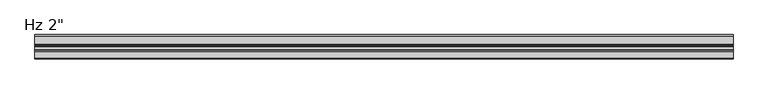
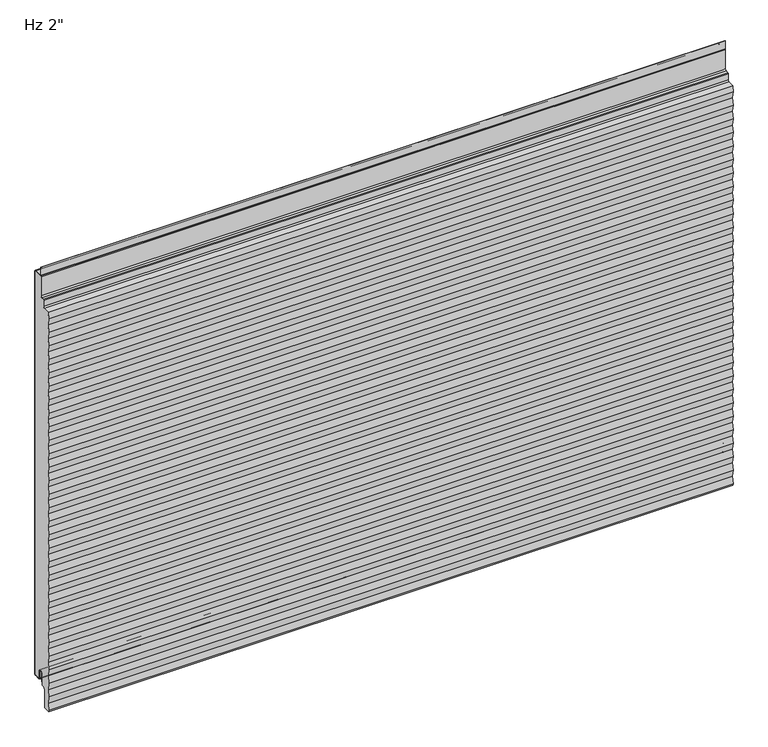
"""IFC4 building model written with IfcOpenShell, lengths in millimetres: plate geometry."""

from ifc_helpers import new_model, si_unit, point, frame, frame_2d, origin, place, context, project, spatial, polyline, circle_curve, trimmed, segment, composite_curve, outline, extrude, source, transform, mapped, element, save


def plate_3e87048a(model_context):
    return source(origin(), model_context, "Body", "SweptSolid", [
        extrude(outline(composite_curve([segment(polyline([(-22.8125, 869.3620957), (-22.8125, 912.60625), (-2.38125, 912.60625)]), True, "CONTINUOUS"), segment(trimmed(circle_curve(frame_2d((-2.38125, 911.225)), 1.38125), [point((-2.38125, 912.60625))], [point((-1.0, 911.225))], False, "CARTESIAN"), True, "CONTINUOUS"), segment(polyline([(-1.0, 911.225), (-1.0, 3.175)]), True, "CONTINUOUS"), segment(trimmed(circle_curve(frame_2d((-2.38125, 3.175)), 1.38125), [point((-1.0, 3.175))], [point((-2.38125, 1.79375))], False, "CARTESIAN"), True, "CONTINUOUS"), segment(polyline([(-2.38125, 1.79375), (-15.08125, 1.79375)]), True, "CONTINUOUS"), segment(trimmed(circle_curve(frame_2d((-15.08125, 3.175)), 1.38125), [point((-15.08125, 1.79375))], [point((-16.4625, 3.175))], False, "CARTESIAN"), True, "CONTINUOUS"), segment(polyline([(-16.4625, 3.175), (-16.4625, 19.05)]), True, "CONTINUOUS"), segment(trimmed(circle_curve(frame_2d((-21.43125, 19.05)), 4.96875), [point((-16.4625, 19.05))], [point((-26.4, 19.05))], True, "CARTESIAN"), True, "CONTINUOUS"), segment(polyline([(-26.4, 19.05), (-26.4, -6.9375), (-30.95625, -6.9375)]), True, "CONTINUOUS"), segment(trimmed(circle_curve(frame_2d((-30.95625, -11.90625)), 4.96875), [point((-30.95625, -6.9375))], [point((-35.925, -11.90625))], True, "CARTESIAN"), True, "CONTINUOUS"), segment(polyline([(-35.925, -11.90625), (-35.925, -50.0895546)]), True, "CONTINUOUS"), segment(trimmed(circle_curve(frame_2d((-37.30625, -50.0895546)), 1.38125), [point((-35.925, -50.0895546))], [point((-37.233961, -51.4689117))], False, "CARTESIAN"), True, "CONTINUOUS"), segment(polyline([(-37.233961, -51.4689117), (-50.4085109, -52.1593606), (-50.9378194, -48.8511825), (-48.4994194, -33.6111825), (-50.9378194, -18.3711825), (-48.4994194, -3.1311825), (-50.9378194, 12.1088175), (-48.4994194, 27.3488175), (-50.9378194, 42.5888175), (-48.4994194, 57.8288175), (-50.9378194, 73.0688175), (-48.4994194, 88.3088175), (-50.9378194, 103.5488175), (-48.4994194, 118.7888175), (-50.9378194, 134.0288175), (-48.4994194, 149.2688175), (-50.9378194, 164.5088175), (-48.4994194, 179.7488175), (-50.9378194, 194.9888175), (-48.4994194, 210.2288175), (-50.9378194, 225.4688175), (-48.4994194, 240.7088175), (-50.9378194, 255.9488175), (-48.4994194, 271.1888175), (-50.9378194, 286.4288175), (-48.4994194, 301.6688175), (-50.9378194, 316.9088175), (-48.4994194, 332.1488175), (-50.9378194, 347.3888175), (-48.4994194, 362.6288175), (-50.9378194, 377.8688175), (-48.4994194, 393.1088175), (-50.9378194, 408.3488175), (-48.4994194, 423.5888175), (-50.9378194, 438.8288175), (-48.4994194, 454.0688175), (-50.9378194, 469.3088175), (-48.4994194, 484.5488175), (-50.9378194, 499.7888175), (-48.4994194, 515.0288175), (-50.9378194, 530.2688175), (-48.4994194, 545.5088175), (-50.9378194, 560.7488175), (-48.4994194, 575.9888175), (-50.9378194, 591.2288175), (-48.4994194, 606.4688175), (-50.9378194, 621.7088175), (-48.4994194, 636.9488175), (-50.9378194, 652.1888175), (-48.4994194, 667.4288175), (-50.9378194, 682.6688175), (-48.4994194, 697.9088175), (-50.9378194, 713.1488175), (-48.4994194, 728.3888175), (-50.9378194, 743.6288175), (-48.4994194, 758.8688175), (-50.9378194, 774.1088175), (-48.4994194, 789.3488175), (-50.9378194, 804.5888175), (-48.4994194, 819.8288175), (-50.9054086, 834.86625), (-48.8673048, 847.6043985), (-34.7895807, 848.3421807)]), True, "CONTINUOUS"), segment(trimmed(circle_curve(frame_2d((-34.925, 850.9261347)), 2.5875), [point((-34.7895807, 848.3421807))], [point((-32.3375, 850.9261347))], True, "CARTESIAN"), True, "CONTINUOUS"), segment(polyline([(-32.3375, 850.9261347), (-32.3375, 865.0967085)]), True, "CONTINUOUS"), segment(trimmed(circle_curve(frame_2d((-30.95625, 865.0967085)), 1.38125), [point((-32.3375, 865.0967085))], [point((-31.028539, 866.4760655))], False, "CARTESIAN"), True, "CONTINUOUS"), segment(polyline([(-31.028539, 866.4760655), (-25.2645807, 866.7781418)]), True, "CONTINUOUS"), segment(trimmed(circle_curve(frame_2d((-25.4, 869.3620957)), 2.5875), [point((-25.2645807, 866.7781418))], [point((-22.8125, 869.3620957))], True, "CARTESIAN"), True, "CONTINUOUS")], self_intersect=False)), frame((-730.0, 0.0, 0.0), z_axis=(1.0, 0.0, 0.0), x_axis=(0.0, 1.0, 0.0)), (0.0, 0.0, 1.0), 1460.0),
        extrude(outline(composite_curve([segment(polyline([(-25.4, 0.79375), (-26.4, 0.79375), (-26.4, 19.05)]), True, "CONTINUOUS"), segment(trimmed(circle_curve(frame_2d((-21.43125, 19.05)), 4.96875), [point((-26.4, 19.05))], [point((-16.4625, 19.05))], False, "CARTESIAN"), True, "CONTINUOUS"), segment(polyline([(-16.4625, 19.05), (-16.4625, 3.175)]), True, "CONTINUOUS"), segment(trimmed(circle_curve(frame_2d((-15.08125, 3.175)), 1.38125), [point((-16.4625, 3.175))], [point((-15.08125, 1.79375))], True, "CARTESIAN"), True, "CONTINUOUS"), segment(polyline([(-15.08125, 1.79375), (-2.38125, 1.79375)]), True, "CONTINUOUS"), segment(trimmed(circle_curve(frame_2d((-2.38125, 3.175)), 1.38125), [point((-2.38125, 1.79375))], [point((-1.0, 3.175))], True, "CARTESIAN"), True, "CONTINUOUS"), segment(polyline([(-1.0, 3.175), (-1.0, 911.225)]), True, "CONTINUOUS"), segment(trimmed(circle_curve(frame_2d((-2.38125, 911.225)), 1.38125), [point((-1.0, 911.225))], [point((-2.38125, 912.60625))], True, "CARTESIAN"), True, "CONTINUOUS"), segment(polyline([(-2.38125, 912.60625), (-19.446875, 912.60625)]), True, "CONTINUOUS"), segment(trimmed(circle_curve(frame_2d((-19.446875, 915.19375)), 2.5875), [point((-19.446875, 912.60625))], [point((-22.034375, 915.19375))], False, "CARTESIAN"), True, "CONTINUOUS"), segment(polyline([(-22.034375, 915.19375), (-22.034375, 932.65625), (-21.034375, 932.65625), (-21.034375, 915.19375)]), True, "CONTINUOUS"), segment(trimmed(circle_curve(frame_2d((-19.446875, 915.19375)), 1.5875), [point((-21.034375, 915.19375))], [point((-19.446875, 913.60625))], True, "CARTESIAN"), True, "CONTINUOUS"), segment(polyline([(-19.446875, 913.60625), (-2.38125, 913.60625)]), True, "CONTINUOUS"), segment(trimmed(circle_curve(frame_2d((-2.38125, 911.225)), 2.38125), [point((-2.38125, 913.60625))], [point((0.0, 911.225))], False, "CARTESIAN"), True, "CONTINUOUS"), segment(polyline([(0.0, 911.225), (0.0, 3.175)]), True, "CONTINUOUS"), segment(trimmed(circle_curve(frame_2d((-2.38125, 3.175)), 2.38125), [point((0.0, 3.175))], [point((-2.38125, 0.79375))], False, "CARTESIAN"), True, "CONTINUOUS"), segment(polyline([(-2.38125, 0.79375), (-15.08125, 0.79375)]), True, "CONTINUOUS"), segment(trimmed(circle_curve(frame_2d((-15.08125, 3.175)), 2.38125), [point((-15.08125, 0.79375))], [point((-17.4625, 3.175))], False, "CARTESIAN"), True, "CONTINUOUS"), segment(polyline([(-17.4625, 3.175), (-17.4625, 19.05)]), True, "CONTINUOUS"), segment(trimmed(circle_curve(frame_2d((-21.43125, 19.05)), 3.96875), [point((-17.4625, 19.05))], [point((-25.4, 19.05))], True, "CARTESIAN"), True, "CONTINUOUS"), segment(polyline([(-25.4, 19.05), (-25.4, 0.79375)]), True, "CONTINUOUS")], self_intersect=False)), frame((-730.0, 0.0, 0.0), z_axis=(1.0, 0.0, 0.0), x_axis=(0.0, 1.0, 0.0)), (0.0, 0.0, 1.0), 1460.0),
    ])


if __name__ == "__main__":
    model = new_model("IFC4")
    model_context = context("Model", 3, world=origin())
    ifc_project = project(units=[si_unit("LENGTHUNIT", "METRE", prefix="MILLI")], contexts=[model_context])
    site = spatial("IfcSite", under=ifc_project)
    building = spatial("IfcBuilding", under=site)
    placement = place(None, origin())
    plate_shape = plate_3e87048a(model_context)
    element("IfcPlate", 1, ObjectType="KIP-36-DWHR-R19-CP-Hz-S : Hz 2\"", at=placement, inside=building, context=model_context, shape_type="MappedRepresentation", body=[
        mapped(plate_shape, transform((0.0, 0.0, 0.0), x_axis=(1.0, 0.0, 0.0), y_axis=(0.0, 1.0, 0.0), z_axis=(0.0, 0.0, 1.0))),
    ])
    save(model, "model.ifc")
